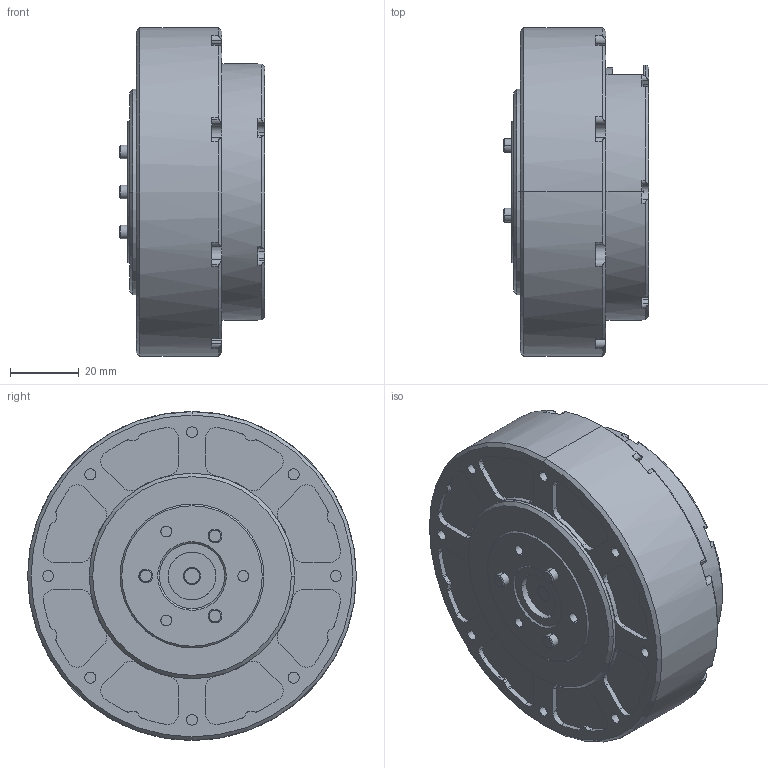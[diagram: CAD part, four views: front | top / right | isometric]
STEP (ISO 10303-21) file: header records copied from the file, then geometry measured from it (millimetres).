
FILE_DESCRIPTION (( 'STEP AP203' ), '1' );
FILE_NAME ('GIM8108-9三维模型_25032802.STEP', '2025-03-28T03:03:36', ( '' ), ( '' ), 'SwSTEP 2.0', 'SolidWorks 2016', '' );
FILE_SCHEMA (( 'CONFIG_CONTROL_DESIGN' ));
Length unit declared in the file: millimetre
Products named in the file (3): GIM8108-9三维模型_250319 (3); GIM8108-9三维模型_25032802; GIM8108-9三维模型_250319 (2)
Assembly tree (2 placements, depth 2):
  GIM8108-9三维模型_25032802
    GIM8108-9三维模型_250319 (2)
    GIM8108-9三维模型_250319 (3)
Bounding box: 42.5 x 96 x 96 mm (x, y, z)
Volume: 191546.2 mm3; surface area: 40521 mm2
Topology: 2 solids, 2 shells, 601 faces, 1600 edges, 1074 vertices
Faces by surface type: cylinder 399, plane 163, cone 39
Entity records: 22622 total; most frequent: CARTESIAN_POINT 6967, DIRECTION 3331, ORIENTED_EDGE 3200, EDGE_CURVE 1600, AXIS2_PLACEMENT_3D 1348, VERTEX_POINT 1074, CIRCLE 742, EDGE_LOOP 684
